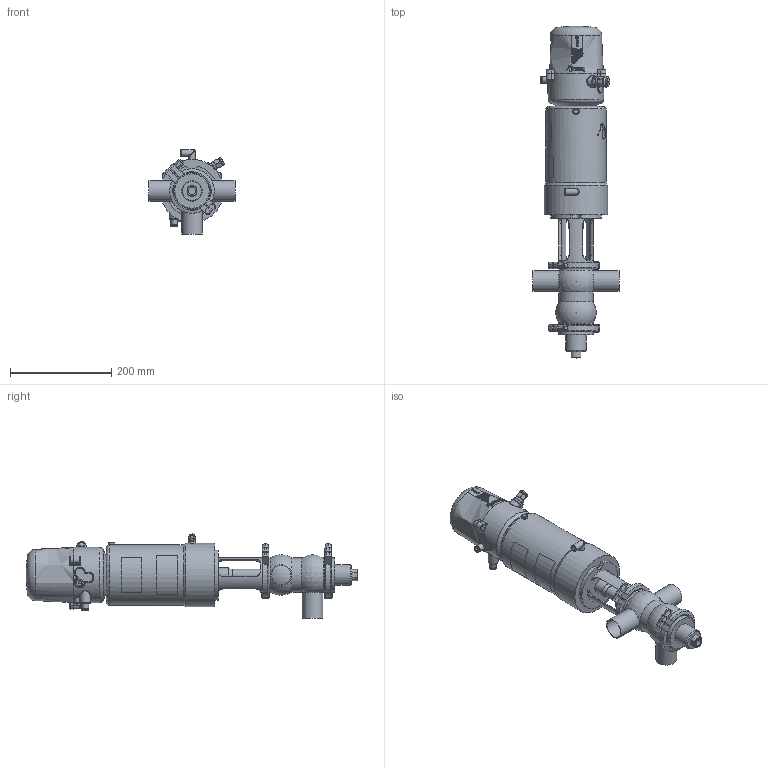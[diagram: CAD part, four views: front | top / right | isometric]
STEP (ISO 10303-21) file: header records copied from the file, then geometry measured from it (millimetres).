
FILE_DESCRIPTION (( 'STEP AP214' ), '1' );
FILE_NAME ('INNOVA S AB-90 W DIN 040 & C-TOP S_10.251.16.0011.STEP', '2024-08-19T11:00:40', ( '' ), ( '' ), 'SwSTEP 2.0', 'SolidWorks 2023', '' );
FILE_SCHEMA (( 'AUTOMOTIVE_DESIGN' ));
Length unit declared in the file: millimetre
Products named in the file (7): 10.250.15.0002_Type S T1; 10.240.15.0001_DN 040; 10.426.15.0001_C-TOP S - 1 EV; 10.251.15.0001_DN 040; INNOVA S AB-90 W DIN 040 & C-TOP S_10.251.16.0011; 10.251.15.0002_DN 040; 10.251.15.0003_DIN 040
Assembly tree (7 placements, depth 2):
  INNOVA S AB-90 W DIN 040 & C-TOP S_10.251.16.0011
    10.251.15.0001_DN 040
    10.250.15.0002_Type S T1
    10.426.15.0001_C-TOP S - 1 EV
    10.251.15.0003_DIN 040
    10.240.15.0001_DN 040  x2
    10.251.15.0002_DN 040
Bounding box: 170 x 656 x 166 mm (x, y, z)
Volume: 4752344 mm3; surface area: 362331.8 mm2
Topology: 7 solids, 7 shells, 1190 faces, 2872 edges, 1908 vertices
Faces by surface type: plane 414, cylinder 372, cone 202, bspline 160, torus 33, sphere 9
Full cylindrical faces by diameter (mm): 0.371 x17, 0.512 x16, 0.658 x16, 0.795 x16, 0.94 x15, 1.098 x15, 1.241 x13, 1.382 x13, 1.523 x11, 1.669 x10, 2.201 x1, 4.2 x2, 5 x1, 5.5 x2, 6 x3, 6.15 x1, 8 x5, 8.5 x1, 10 x1, 10.5 x2, 11 x2, 12.5 x6, 13 x2, 13.5 x2, 14 x1, 17 x3, 20 x2, 22 x2, 23 x1, 28 x1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
Entity records: 58310 total; most frequent: CARTESIAN_POINT 27447, ORIENTED_EDGE 4600, DIRECTION 3715, EDGE_CURVE 2300, VERTEX_POINT 1628, EDGE_LOOP 1586, AXIS2_PLACEMENT_3D 1515, FACE_OUTER_BOUND 1346
